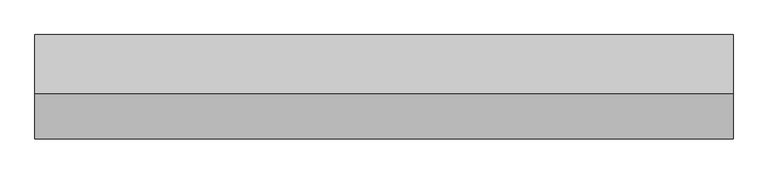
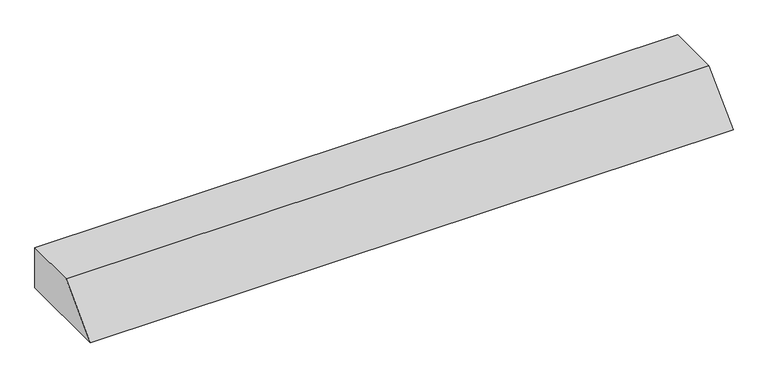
"""IFC4 building model written with IfcOpenShell, lengths in millimetres: proxy geometry, Gousset radier bord droit : Gousset radier bord droit."""

from ifc_helpers import new_model, si_unit, frame, origin, place, context, project, spatial, polyline, outline, extrude, source, transform, mapped, element, save


def generic_models_2be4eea7(model_context):
    return source(origin(), model_context, "Body", "SweptSolid", [
        extrude(outline(polyline([(0.0, 0.0), (-800.0, 0.0), (-450.0, 350.0), (0.0, 350.0), (0.0, 0.0)])), frame((0.0, 0.0, 0.0), z_axis=(1.0, 0.0, 0.0), x_axis=(0.0, 1.0, 0.0)), (0.0, 0.0, 1.0), 5350.7432018),
    ])


if __name__ == "__main__":
    model = new_model("IFC4")
    model_context = context("Model", 3, world=origin())
    ifc_project = project(units=[si_unit("LENGTHUNIT", "METRE", prefix="MILLI")], contexts=[model_context])
    site = spatial("IfcSite", under=ifc_project)
    building = spatial("IfcBuilding", under=site)
    placement = place(None, origin())
    generic_models_shape = generic_models_2be4eea7(model_context)
    element("IfcBuildingElementProxy", 1, Name="Gousset radier bord droit : Gousset radier bord droit", ObjectType="Gousset radier bord droit : Gousset radier bord droit", at=placement, inside=building, context=model_context, shape_type="MappedRepresentation", body=[
        mapped(generic_models_shape, transform((0.0, 0.0, 0.0), x_axis=(1.0, 0.0, 0.0), y_axis=(0.0, 1.0, 0.0), z_axis=(0.0, 0.0, 1.0))),
    ])
    save(model, "model.ifc")
